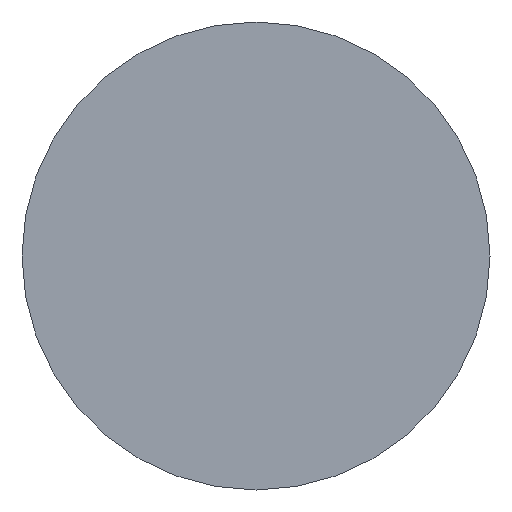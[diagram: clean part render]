
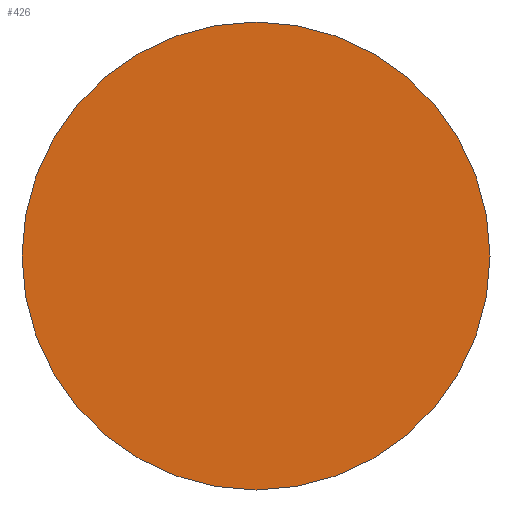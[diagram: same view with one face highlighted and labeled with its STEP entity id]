
A CAD part, left-side view. The second image highlights one B-rep face of the part: STEP entity #426.
In plain terms, the highlighted planar face has unit normal (-1, 0, 0).
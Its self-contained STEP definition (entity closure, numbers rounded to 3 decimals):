
#16=PLANE('',#524);
#46=FACE_OUTER_BOUND('',#66,.T.);
#66=EDGE_LOOP('',(#397,#398));
#89=CIRCLE('',#450,3.975);
#90=CIRCLE('',#451,3.975);
#148=VERTEX_POINT('',#700);
#149=VERTEX_POINT('',#702);
#198=EDGE_CURVE('',#148,#149,#89,.T.);
#199=EDGE_CURVE('',#149,#148,#90,.T.);
#397=ORIENTED_EDGE('',*,*,#199,.F.);
#398=ORIENTED_EDGE('',*,*,#198,.F.);
#426=ADVANCED_FACE('',(#46),#16,.T.);
#450=AXIS2_PLACEMENT_3D('',#703,#534,#535);
#451=AXIS2_PLACEMENT_3D('',#704,#536,#537);
#524=AXIS2_PLACEMENT_3D('',#831,#691,#692);
#534=DIRECTION('center_axis',(1.,0.,0.));
#535=DIRECTION('ref_axis',(0.,1.,0.));
#536=DIRECTION('center_axis',(1.,0.,0.));
#537=DIRECTION('ref_axis',(0.,1.,0.));
#691=DIRECTION('center_axis',(-1.,0.,0.));
#692=DIRECTION('ref_axis',(0.,0.,1.));
#700=CARTESIAN_POINT('',(0.,-3.975,0.));
#702=CARTESIAN_POINT('',(0.,3.975,0.));
#703=CARTESIAN_POINT('Origin',(0.,0.,0.));
#704=CARTESIAN_POINT('Origin',(0.,0.,0.));
#831=CARTESIAN_POINT('Origin',(0.,1.988,0.));
